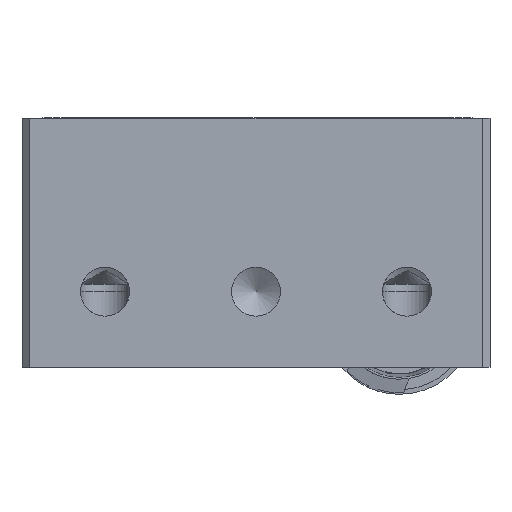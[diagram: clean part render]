
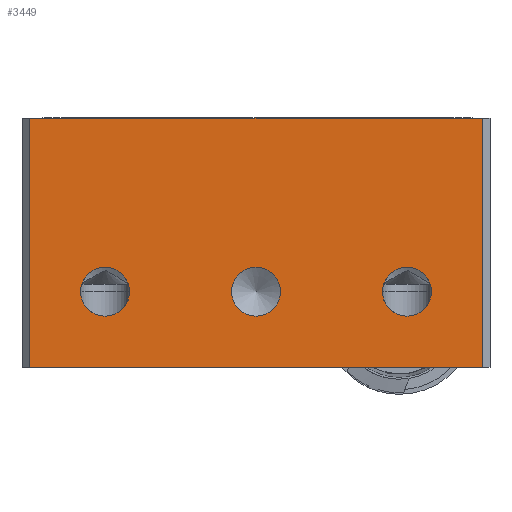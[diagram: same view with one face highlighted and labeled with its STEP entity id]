
A CAD part, front view. The second image highlights one B-rep face of the part: STEP entity #3449.
In plain terms, the highlighted planar face has unit normal (0, -1, 0).
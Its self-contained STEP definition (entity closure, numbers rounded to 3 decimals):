
#287=CIRCLE('',#5062,1.621);
#291=CIRCLE('',#5072,1.621);
#295=CIRCLE('',#5085,1.621);
#1141=ORIENTED_EDGE('',*,*,#1556,.T.);
#1142=ORIENTED_EDGE('',*,*,#1565,.T.);
#1143=ORIENTED_EDGE('',*,*,#1549,.T.);
#1144=ORIENTED_EDGE('',*,*,#1748,.F.);
#1145=ORIENTED_EDGE('',*,*,#1749,.T.);
#1146=ORIENTED_EDGE('',*,*,#1750,.T.);
#1147=ORIENTED_EDGE('',*,*,#1751,.T.);
#1549=EDGE_CURVE('',#1979,#1979,#287,.T.);
#1556=EDGE_CURVE('',#1984,#1984,#291,.T.);
#1565=EDGE_CURVE('',#1989,#1989,#295,.T.);
#1748=EDGE_CURVE('',#2110,#2111,#2341,.T.);
#1749=EDGE_CURVE('',#2110,#2112,#2342,.T.);
#1750=EDGE_CURVE('',#2112,#2113,#2343,.T.);
#1751=EDGE_CURVE('',#2113,#2111,#2344,.T.);
#1979=VERTEX_POINT('',#7455);
#1984=VERTEX_POINT('',#7470);
#1989=VERTEX_POINT('',#7488);
#2110=VERTEX_POINT('',#8027);
#2111=VERTEX_POINT('',#8028);
#2112=VERTEX_POINT('',#8030);
#2113=VERTEX_POINT('',#8032);
#2341=LINE('',#8026,#2581);
#2342=LINE('',#8029,#2582);
#2343=LINE('',#8031,#2583);
#2344=LINE('',#8033,#2584);
#2581=VECTOR('',#6128,1000.);
#2582=VECTOR('',#6129,1000.);
#2583=VECTOR('',#6130,1000.);
#2584=VECTOR('',#6131,1000.);
#2861=EDGE_LOOP('',(#1141));
#2862=EDGE_LOOP('',(#1142));
#2863=EDGE_LOOP('',(#1143));
#2864=EDGE_LOOP('',(#1144,#1145,#1146,#1147));
#3131=FACE_BOUND('',#2861,.T.);
#3132=FACE_BOUND('',#2862,.T.);
#3133=FACE_BOUND('',#2863,.T.);
#3134=FACE_BOUND('',#2864,.T.);
#3255=PLANE('',#5212);
#3449=ADVANCED_FACE('',(#3131,#3132,#3133,#3134),#3255,.F.);
#5062=AXIS2_PLACEMENT_3D('',#7454,#5728,#5729);
#5072=AXIS2_PLACEMENT_3D('',#7469,#5748,#5749);
#5085=AXIS2_PLACEMENT_3D('',#7487,#5774,#5775);
#5212=AXIS2_PLACEMENT_3D('',#8025,#6126,#6127);
#5728=DIRECTION('',(0.,1.,0.));
#5729=DIRECTION('',(1.,0.,0.));
#5748=DIRECTION('',(0.,1.,0.));
#5749=DIRECTION('',(1.,0.,0.));
#5774=DIRECTION('',(0.,1.,0.));
#5775=DIRECTION('',(1.,0.,0.));
#6126=DIRECTION('',(0.,1.,0.));
#6127=DIRECTION('',(-1.,0.,0.));
#6128=DIRECTION('',(-1.,0.,0.));
#6129=DIRECTION('',(0.,0.,1.));
#6130=DIRECTION('',(-1.,0.,0.));
#6131=DIRECTION('',(0.,0.,-1.));
#7454=CARTESIAN_POINT('',(0.,-53.5,-11.5));
#7455=CARTESIAN_POINT('',(1.621,-53.5,-11.5));
#7469=CARTESIAN_POINT('',(-10.,-53.5,-11.5));
#7470=CARTESIAN_POINT('',(-8.379,-53.5,-11.5));
#7487=CARTESIAN_POINT('',(10.,-53.5,-11.5));
#7488=CARTESIAN_POINT('',(11.621,-53.5,-11.5));
#8025=CARTESIAN_POINT('',(15.5,-53.5,-16.5));
#8026=CARTESIAN_POINT('',(15.5,-53.5,-16.5));
#8027=CARTESIAN_POINT('',(15.,-53.5,-16.5));
#8028=CARTESIAN_POINT('',(-15.,-53.5,-16.5));
#8029=CARTESIAN_POINT('',(15.,-53.5,-16.5));
#8030=CARTESIAN_POINT('',(15.,-53.5,0.));
#8031=CARTESIAN_POINT('',(15.5,-53.5,0.));
#8032=CARTESIAN_POINT('',(-15.,-53.5,0.));
#8033=CARTESIAN_POINT('',(-15.,-53.5,-16.5));
